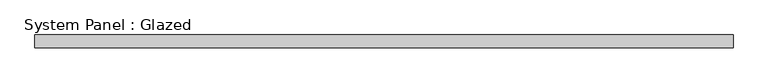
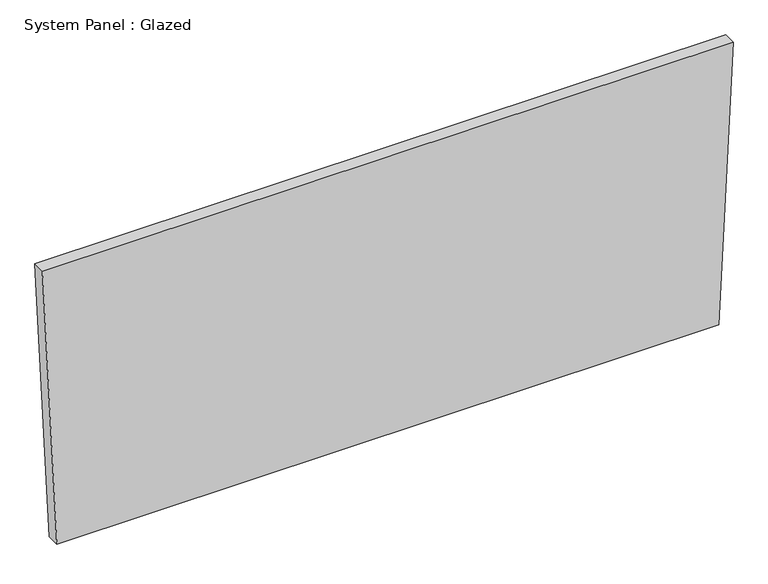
"""IFC4 building model written with IfcOpenShell, lengths in millimetres: plate geometry, System Panel : Glazed."""

import ifcopenshell
import ifcopenshell.guid

model = None  # the IFC model being written
_history = None  # IfcOwnerHistory: only IFC2X3 demands one
_inside = {}  # id of a spatial element -> (the spatial element, [elements in it])
_under = {}  # id of a project, library or spatial element -> (it, [spatial elements below it])
_declared = {}  # id of a project -> (the project, [libraries it declares])
_typed = {}  # id of a type object -> (the type object, [elements of that type])
_made_of = {}  # id of a material, layer set ... -> (it, [elements and type objects made of it])


def new_model(schema):
    """Start an empty IFC model of exactly this schema.

    Asked for "IFC4X3", IfcOpenShell would pick the latest addendum, in which some entities
    have other attributes; the version numbers below select the first issue.
    IFC2X3 requires an IfcOwnerHistory on every rooted entity: one is made here for all.
    """
    global model, _history
    if schema == "IFC4X3":
        model = ifcopenshell.file(schema_version=(4, 3, 0, 0))
    else:
        model = ifcopenshell.file(schema=schema)
    _inside.clear()
    _under.clear()
    _declared.clear()
    _typed.clear()
    _made_of.clear()
    _history = None
    if model.schema == "IFC2X3":
        org = make("IfcOrganization", Name="unknown")
        user = make(
            "IfcPersonAndOrganization",
            ThePerson=make("IfcPerson", FamilyName="unknown"),
            TheOrganization=org,
        )
        app = make(
            "IfcApplication",
            ApplicationDeveloper=org,
            Version="unknown",
            ApplicationFullName="unknown",
            ApplicationIdentifier="unknown",
        )
        _history = make(
            "IfcOwnerHistory",
            OwningUser=user,
            OwningApplication=app,
            ChangeAction="ADDED",
            CreationDate=0,
        )
    return model


def make(cls, **values):
    """One entity of the class cls with the attributes given. An attribute that is None is left unset."""
    return model.create_entity(
        cls, **{name: value for name, value in values.items() if value is not None}
    )


def rooted(cls, **values):
    """An entity with a GlobalId (a new one), such as an element, a storey or a relation."""
    return make(cls, GlobalId=ifcopenshell.guid.new(), OwnerHistory=_history, **values)


def si_unit(unit_type, name, prefix=None):
    """IfcSIUnit, for example si_unit("LENGTHUNIT", "METRE", prefix="MILLI")."""
    return make("IfcSIUnit", UnitType=unit_type, Prefix=prefix, Name=name)


def assignment(units):
    """IfcUnitAssignment: the units of a project."""
    return None if units is None else make("IfcUnitAssignment", Units=units)


def point(xyz):
    """IfcCartesianPoint."""
    return None if xyz is None else make("IfcCartesianPoint", Coordinates=xyz)


def direction(xyz):
    """IfcDirection."""
    return None if xyz is None else make("IfcDirection", DirectionRatios=xyz)


def frame(location, z_axis=None, x_axis=None):
    """IfcAxis2Placement3D, a coordinate frame: its origin and axes. An axis left out is left unset."""
    return make(
        "IfcAxis2Placement3D",
        Location=point(location),
        Axis=direction(z_axis),
        RefDirection=direction(x_axis),
    )


def origin():
    """The frame at (0, 0, 0) with its axes left unset."""
    return frame((0.0, 0.0, 0.0))


def place(relative_to, where):
    """IfcLocalPlacement: puts the frame where relative to a parent placement (None: the world)."""
    return make(
        "IfcLocalPlacement", PlacementRelTo=relative_to, RelativePlacement=where
    )


def context(
    kind, dimensions, precision=None, world=None, true_north=None, identifier=None
):
    """IfcGeometricRepresentationContext, for example the 3D "Model" context."""
    return make(
        "IfcGeometricRepresentationContext",
        ContextIdentifier=identifier,
        ContextType=kind,
        CoordinateSpaceDimension=dimensions,
        Precision=precision,
        WorldCoordinateSystem=world,
        TrueNorth=true_north,
    )


def project(units=None, contexts=None):
    """IfcProject with its units and contexts."""
    return rooted(
        "IfcProject",
        Name="project",
        RepresentationContexts=contexts,
        UnitsInContext=assignment(units),
    )


def spatial(cls, under=None, at=None, **own):
    """A site, building, storey or space (cls), placed at a placement, below another one or the project."""
    s = rooted(cls, ObjectPlacement=at, **own)
    if under is not None:
        _under.setdefault(under.id(), (under, []))[1].append(s)
    return s


def polyline(points):
    """IfcPolyline through the points."""
    return make("IfcPolyline", Points=[point(p) for p in points])


def outline(outer, holes=None, kind="AREA"):
    """IfcArbitraryClosedProfileDef: a profile drawn as a closed curve; with holes, ...WithVoids."""
    if holes is None:
        return make("IfcArbitraryClosedProfileDef", ProfileType=kind, OuterCurve=outer)
    return make(
        "IfcArbitraryProfileDefWithVoids",
        ProfileType=kind,
        OuterCurve=outer,
        InnerCurves=holes,
    )


def extrude(swept, where, along, depth):
    """IfcExtrudedAreaSolid: the profile swept, set in the frame where, extruded along a direction by depth."""
    return make(
        "IfcExtrudedAreaSolid",
        SweptArea=swept,
        Position=where,
        ExtrudedDirection=direction(along),
        Depth=depth,
    )


def shape(context_of_items, identifier, shape_type, items):
    """IfcShapeRepresentation: the items that make up one representation, for example the "Body"."""
    return make(
        "IfcShapeRepresentation",
        ContextOfItems=context_of_items,
        RepresentationIdentifier=identifier,
        RepresentationType=shape_type,
        Items=items,
    )


def source(mapping_origin, context_of_items, identifier, shape_type, items):
    """IfcRepresentationMap: a shape defined once, which mapped items show again and again."""
    return make(
        "IfcRepresentationMap",
        MappingOrigin=mapping_origin,
        MappedRepresentation=shape(context_of_items, identifier, shape_type, items),
    )


def transform(
    local_origin,
    x_axis=None,
    y_axis=None,
    z_axis=None,
    scale=None,
    scale2=None,
    scale3=None,
    uniform=True,
):
    """IfcCartesianTransformationOperator3D, or its non-uniform kind. x_axis, y_axis, z_axis: its Axis1, 2, 3."""
    if uniform:
        return make(
            "IfcCartesianTransformationOperator3D",
            Axis1=direction(x_axis),
            Axis2=direction(y_axis),
            LocalOrigin=point(local_origin),
            Scale=scale,
            Axis3=direction(z_axis),
        )
    return make(
        "IfcCartesianTransformationOperator3DnonUniform",
        Axis1=direction(x_axis),
        Axis2=direction(y_axis),
        LocalOrigin=point(local_origin),
        Scale=scale,
        Axis3=direction(z_axis),
        Scale2=scale2,
        Scale3=scale3,
    )


def mapped(mapping_source, mapping_target):
    """IfcMappedItem: shows the shape of a source again, moved by a transform."""
    return make(
        "IfcMappedItem", MappingSource=mapping_source, MappingTarget=mapping_target
    )


def made_of(thing, what):
    """Note that an element or type object is made of a material, layer set ...; save() writes the relation."""
    if what is not None:
        _made_of.setdefault(what.id(), (what, []))[1].append(thing)
    return thing


def element(
    cls,
    number,
    at=None,
    inside=None,
    cuts=None,
    type_object=None,
    material=None,
    context=None,
    identifier="Body",
    shape_type=None,
    held_by="IfcProductDefinitionShape",
    body=None,
    shapes=None,
    **own,
):
    """One element of the class cls, such as IfcWall. Its Tag is "e" and its number.

    at: its placement. inside: the storey or other place that contains it. cuts: it is an
    opening in that element (IfcRelVoidsElement). A single representation is given by context,
    identifier, shape_type and body (its items); several are given by shapes. held_by: the class
    of the entity that holds the representations. save() writes the other relations.
    """
    e = rooted(cls, Tag="e%d" % number, ObjectPlacement=at, **own)
    if body is not None:
        shapes = [shape(context, identifier, shape_type, body)]
    if shapes is not None:
        e.Representation = make(held_by, Representations=shapes)
    if inside is not None:
        _inside.setdefault(inside.id(), (inside, []))[1].append(e)
    if cuts is not None:
        rooted(
            "IfcRelVoidsElement", RelatingBuildingElement=cuts, RelatedOpeningElement=e
        )
    if type_object is not None:
        _typed.setdefault(type_object.id(), (type_object, []))[1].append(e)
    return made_of(e, material)


def aggregate(whole, parts):
    """IfcRelAggregates: a whole, such as a stair, and the parts it consists of."""
    return rooted("IfcRelAggregates", RelatingObject=whole, RelatedObjects=parts)


def save(model, path):
    """Write the relations noted so far, then the file.

    IfcRelAggregates (storeys below a building ...), IfcRelContainedInSpatialStructure (elements
    in a storey), IfcRelDefinesByType, IfcRelAssociatesMaterial and IfcRelDeclares: one each for
    every whole, place, type object, material and project.
    """
    for whole, parts in _under.values():
        aggregate(whole, parts)
    for where, things in _inside.values():
        rooted(
            "IfcRelContainedInSpatialStructure",
            RelatedElements=things,
            RelatingStructure=where,
        )
    for kind, things in _typed.values():
        rooted("IfcRelDefinesByType", RelatedObjects=things, RelatingType=kind)
    for what, things in _made_of.values():
        rooted("IfcRelAssociatesMaterial", RelatedObjects=things, RelatingMaterial=what)
    for by, libraries in _declared.values():
        rooted("IfcRelDeclares", RelatingContext=by, RelatedDefinitions=libraries)
    model.write(path)


def system_panel_glazed_abe1d05c(model_context):
    return source(origin(), model_context, "Body", "SweptSolid", [
        extrude(outline(polyline([(0.0, -657.3522433), (0.0, 657.3522433), (583.4620483, 686.0874075), (583.4620483, -686.0874075), (0.0, -657.3522433)])), frame((0.0, 19.05, 0.0), z_axis=(0.0, 1.0, 0.0), x_axis=(0.0, 0.0, 1.0)), (0.0, 0.0, 1.0), 25.4),
    ])


if __name__ == "__main__":
    model = new_model("IFC4")
    model_context = context("Model", 3, world=origin())
    ifc_project = project(units=[si_unit("LENGTHUNIT", "METRE", prefix="MILLI")], contexts=[model_context])
    site = spatial("IfcSite", under=ifc_project)
    building = spatial("IfcBuilding", under=site)
    placement = place(None, origin())
    system_panel_glazed_shape = system_panel_glazed_abe1d05c(model_context)
    element("IfcPlate", 1, ObjectType="System Panel : Glazed", at=placement, inside=building, context=model_context, shape_type="MappedRepresentation", body=[
        mapped(system_panel_glazed_shape, transform((0.0, 0.0, 0.0), x_axis=(1.0, 0.0, 0.0), y_axis=(0.0, 1.0, 0.0), z_axis=(0.0, 0.0, 1.0))),
    ])
    save(model, "model.ifc")
